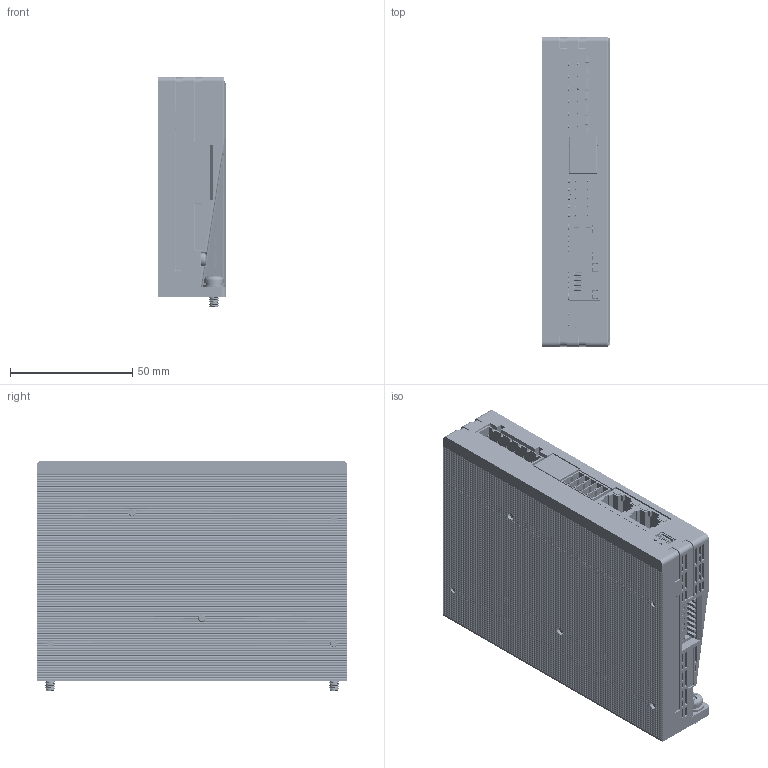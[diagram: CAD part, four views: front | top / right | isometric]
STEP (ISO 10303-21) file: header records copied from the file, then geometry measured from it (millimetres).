
FILE_DESCRIPTION(('CATIA V5 STEP Exchange','CAx-IF Rec.Pracs.--- Composite Materials ---3.4---2017-06-13'),'2;1');
FILE_NAME('E:\【1】\新建文件夹 (34)\DP3CL1-305-官网图+EPLAN图-240826.stp','2024-12-02T03:36:32+00:00',('none'),('none'),'CATIA Version 5-6 Release 2020','CATIA V5 STEP AP203 v1','none');
FILE_SCHEMA(('CONFIG_CONTROL_DESIGN'));
Products named in the file (1): _model1
Bounding box: 28.12 x 126.6 x 94.1 mm (x, y, z)
Volume: 298985.1 mm3; surface area: 96142.5 mm2
Topology: 621 solids, 628 shells, 12222 faces, 36523 edges, 25521 vertices
Faces by surface type: plane 8991, bspline 1756, cylinder 1259, torus 113, extrusion 64, cone 29, sphere 6, revolution 4
Entity records: 469556 total; most frequent: CARTESIAN_POINT 173889, ORIENTED_EDGE 73008, DIRECTION 41642, EDGE_CURVE 36516, VERTEX_POINT 25521, VECTOR 23950, LINE 23886, EDGE_LOOP 12830
